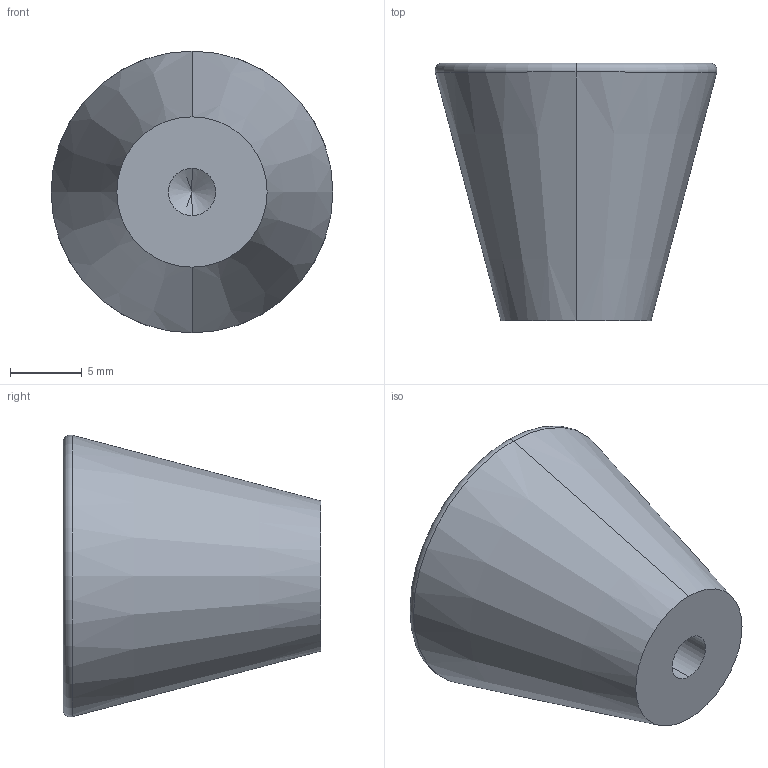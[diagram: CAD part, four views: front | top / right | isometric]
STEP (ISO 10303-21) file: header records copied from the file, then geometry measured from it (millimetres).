
FILE_DESCRIPTION (( 'STEP AP203' ), '1' );
FILE_NAME ('D12-112018.STEP', '2024-12-16T07:40:40', ( '' ), ( '' ), 'SwSTEP 2.0', 'SolidWorks 2021', '' );
FILE_SCHEMA (( 'CONFIG_CONTROL_DESIGN' ));
Length unit declared in the file: millimetre
Products named in the file (1): D12-112018
Bounding box: 19.7 x 18 x 19.7 mm (x, y, z)
Volume: 3308.4 mm3; surface area: 1363.2 mm2
Topology: 1 solids, 1 shells, 10 faces, 20 edges, 11 vertices
Faces by surface type: cone 4, cylinder 2, torus 2, plane 2
Entity records: 327 total; most frequent: DIRECTION 52, CARTESIAN_POINT 40, ORIENTED_EDGE 36, AXIS2_PLACEMENT_3D 23, EDGE_CURVE 18, CIRCLE 12, VERTEX_POINT 11, EDGE_LOOP 11
